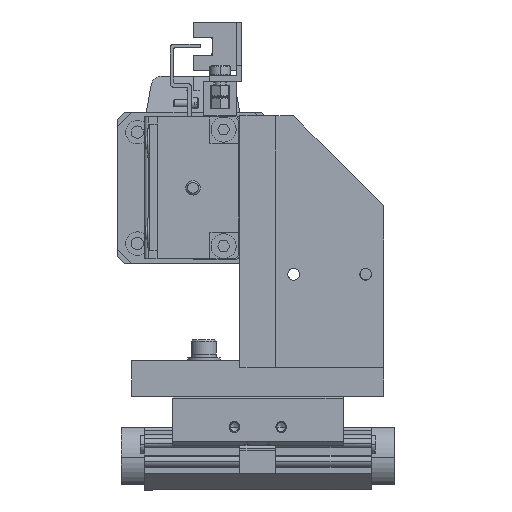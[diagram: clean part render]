
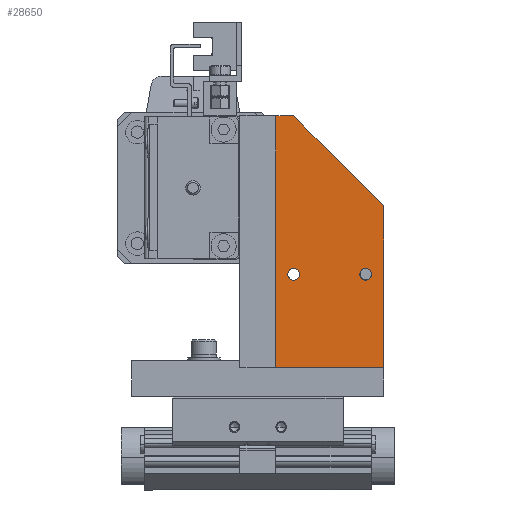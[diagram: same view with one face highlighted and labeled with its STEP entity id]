
A CAD part, front view. The second image highlights one B-rep face of the part: STEP entity #28650.
In plain terms, the highlighted planar face has unit normal (0, -1, 0) as drawn and (1, 0, 0) by its records, which use the part's own axes.
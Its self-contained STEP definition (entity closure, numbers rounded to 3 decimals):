
#801 = DIRECTION ( 'NONE',  ( 0., 0., -1. ) ) ;
#1572 = VERTEX_POINT ( 'NONE', #5776 ) ;
#1876 = DIRECTION ( 'NONE',  ( 0., 0., -1. ) ) ;
#4287 = AXIS2_PLACEMENT_3D ( 'NONE', #68545, #21922, #1876 ) ;
#5776 = CARTESIAN_POINT ( 'NONE',  ( 0., 0., -30. ) ) ;
#5917 = CARTESIAN_POINT ( 'NONE',  ( 0., 70., 0. ) ) ;
#7017 = VECTOR ( 'NONE', #84766, 1000. ) ;
#7781 = ORIENTED_EDGE ( 'NONE', *, *, #59353, .F. ) ;
#8293 = EDGE_CURVE ( 'NONE', #47055, #14247, #74171, .T. ) ;
#9796 = CARTESIAN_POINT ( 'NONE',  ( 0., 26., -25. ) ) ;
#10086 = DIRECTION ( 'NONE',  ( -1., 0., 0. ) ) ;
#10535 = LINE ( 'NONE', #44799, #67546 ) ;
#11730 = DIRECTION ( 'NONE',  ( 0., 1., 0. ) ) ;
#11982 = VECTOR ( 'NONE', #25055, 1000. ) ;
#13407 = EDGE_LOOP ( 'NONE', ( #60825, #72281 ) ) ;
#14067 = EDGE_CURVE ( 'NONE', #67187, #42716, #44640, .T. ) ;
#14247 = VERTEX_POINT ( 'NONE', #25335 ) ;
#18243 = FACE_BOUND ( 'NONE', #13407, .T. ) ;
#18333 = CARTESIAN_POINT ( 'NONE',  ( 0., 45., -30. ) ) ;
#18447 = ORIENTED_EDGE ( 'NONE', *, *, #38963, .F. ) ;
#18851 = DIRECTION ( 'NONE',  ( 0., -1., 0. ) ) ;
#19029 = CARTESIAN_POINT ( 'NONE',  ( 0., 26., -26.65 ) ) ;
#21922 = DIRECTION ( 'NONE',  ( -1., 0., 0. ) ) ;
#22051 = AXIS2_PLACEMENT_3D ( 'NONE', #41464, #67478, #801 ) ;
#22870 = DIRECTION ( 'NONE',  ( 0., 0., -1. ) ) ;
#25055 = DIRECTION ( 'NONE',  ( 0., 0., -1. ) ) ;
#25335 = CARTESIAN_POINT ( 'NONE',  ( 0., 70., -5. ) ) ;
#26604 = AXIS2_PLACEMENT_3D ( 'NONE', #41120, #28304, #74691 ) ;
#26697 = AXIS2_PLACEMENT_3D ( 'NONE', #44082, #76557, #36829 ) ;
#28304 = DIRECTION ( 'NONE',  ( -1., 0., 0. ) ) ;
#28458 = ORIENTED_EDGE ( 'NONE', *, *, #43523, .T. ) ;
#28589 = CARTESIAN_POINT ( 'NONE',  ( 0., 0., 0. ) ) ;
#28650 = ADVANCED_FACE ( 'NONE', ( #71118, #51428, #18243 ), #61906, .F. ) ;
#28881 = DIRECTION ( 'NONE',  ( 0., 0., 1. ) ) ;
#35163 = CARTESIAN_POINT ( 'NONE',  ( 0., 26., -23.35 ) ) ;
#36478 = CARTESIAN_POINT ( 'NONE',  ( 0., 26., -3.35 ) ) ;
#36829 = DIRECTION ( 'NONE',  ( 0., 0., -1. ) ) ;
#38963 = EDGE_CURVE ( 'NONE', #1572, #44285, #56959, .T. ) ;
#41021 = ORIENTED_EDGE ( 'NONE', *, *, #57184, .F. ) ;
#41120 = CARTESIAN_POINT ( 'NONE',  ( 0., 70., 0. ) ) ;
#41448 = VECTOR ( 'NONE', #28881, 1000. ) ;
#41464 = CARTESIAN_POINT ( 'NONE',  ( 0., 26., -25. ) ) ;
#42716 = VERTEX_POINT ( 'NONE', #36478 ) ;
#43523 = EDGE_CURVE ( 'NONE', #64679, #14247, #49548, .T. ) ;
#44082 = CARTESIAN_POINT ( 'NONE',  ( 0., 26., -5. ) ) ;
#44285 = VERTEX_POINT ( 'NONE', #56183 ) ;
#44462 = EDGE_LOOP ( 'NONE', ( #71344, #7781, #18447, #41021, #28458 ) ) ;
#44627 = CIRCLE ( 'NONE', #22051, 1.65 ) ;
#44630 = VERTEX_POINT ( 'NONE', #19029 ) ;
#44640 = CIRCLE ( 'NONE', #4287, 1.65 ) ;
#44799 = CARTESIAN_POINT ( 'NONE',  ( 0., 0., 0. ) ) ;
#47055 = VERTEX_POINT ( 'NONE', #65866 ) ;
#49548 = LINE ( 'NONE', #18333, #7017 ) ;
#51428 = FACE_OUTER_BOUND ( 'NONE', #44462, .T. ) ;
#53946 = EDGE_CURVE ( 'NONE', #74981, #44630, #56821, .T. ) ;
#55350 = CARTESIAN_POINT ( 'NONE',  ( 0., 26., -6.65 ) ) ;
#56183 = CARTESIAN_POINT ( 'NONE',  ( 0., 0., 0. ) ) ;
#56821 = CIRCLE ( 'NONE', #59963, 1.65 ) ;
#56959 = LINE ( 'NONE', #28589, #41448 ) ;
#57184 = EDGE_CURVE ( 'NONE', #64679, #1572, #72495, .T. ) ;
#59353 = EDGE_CURVE ( 'NONE', #44285, #47055, #10535, .T. ) ;
#59963 = AXIS2_PLACEMENT_3D ( 'NONE', #9796, #10086, #22870 ) ;
#60753 = ORIENTED_EDGE ( 'NONE', *, *, #53946, .T. ) ;
#60825 = ORIENTED_EDGE ( 'NONE', *, *, #14067, .T. ) ;
#61906 = PLANE ( 'NONE',  #26604 ) ;
#63923 = EDGE_CURVE ( 'NONE', #42716, #67187, #83331, .T. ) ;
#64679 = VERTEX_POINT ( 'NONE', #66227 ) ;
#65866 = CARTESIAN_POINT ( 'NONE',  ( 0., 70., 0. ) ) ;
#66227 = CARTESIAN_POINT ( 'NONE',  ( 0., 45., -30. ) ) ;
#67187 = VERTEX_POINT ( 'NONE', #55350 ) ;
#67326 = VECTOR ( 'NONE', #18851, 1000. ) ;
#67478 = DIRECTION ( 'NONE',  ( -1., 0., 0. ) ) ;
#67546 = VECTOR ( 'NONE', #11730, 1000. ) ;
#68545 = CARTESIAN_POINT ( 'NONE',  ( 0., 26., -5. ) ) ;
#71118 = FACE_BOUND ( 'NONE', #79714, .T. ) ;
#71344 = ORIENTED_EDGE ( 'NONE', *, *, #8293, .F. ) ;
#72281 = ORIENTED_EDGE ( 'NONE', *, *, #63923, .T. ) ;
#72495 = LINE ( 'NONE', #78046, #67326 ) ;
#74171 = LINE ( 'NONE', #5917, #11982 ) ;
#74691 = DIRECTION ( 'NONE',  ( 0., 0., 1. ) ) ;
#74981 = VERTEX_POINT ( 'NONE', #35163 ) ;
#75158 = ORIENTED_EDGE ( 'NONE', *, *, #84190, .T. ) ;
#76557 = DIRECTION ( 'NONE',  ( -1., 0., 0. ) ) ;
#78046 = CARTESIAN_POINT ( 'NONE',  ( 0., 0., -30. ) ) ;
#79714 = EDGE_LOOP ( 'NONE', ( #75158, #60753 ) ) ;
#83331 = CIRCLE ( 'NONE', #26697, 1.65 ) ;
#84190 = EDGE_CURVE ( 'NONE', #44630, #74981, #44627, .T. ) ;
#84766 = DIRECTION ( 'NONE',  ( 0., 0.707, 0.707 ) ) ;
